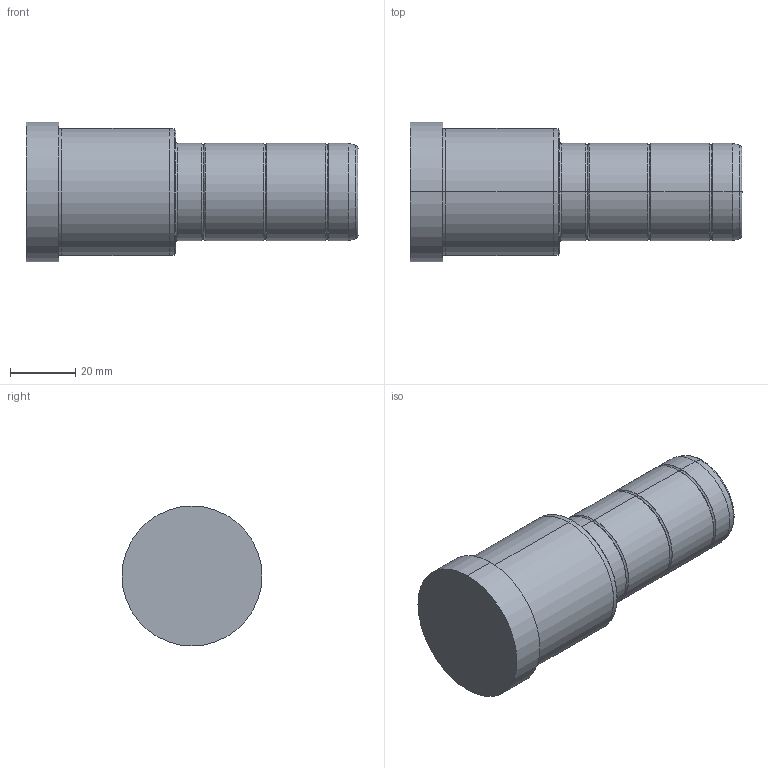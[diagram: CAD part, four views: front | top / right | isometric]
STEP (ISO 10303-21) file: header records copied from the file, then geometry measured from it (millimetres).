
FILE_DESCRIPTION( ( 'STEP AP203' ), '1' );
FILE_NAME( 'C:/Projects/D02 - 30x46x56.step', '2002-12-31T22:51:48', ( ' ' ), ( ' ' ), 'XStep 1.0', ' ', ' ' );
FILE_SCHEMA( ( 'CONFIG_CONTROL_DESIGN' ) );
Length unit declared in the file: metre
Products named in the file (1): 1
Bounding box: 102 x 43 x 43 mm (x, y, z)
Volume: 96910.6 mm3; surface area: 13952.1 mm2
Topology: 1 solids, 1 shells, 42 faces, 82 edges, 46 vertices
Faces by surface type: bspline 22, revolution 20
Entity records: 1325 total; most frequent: CARTESIAN_POINT 517, ORIENTED_EDGE 164, DIRECTION 134, EDGE_CURVE 82, AXIS2_PLACEMENT_3D 47, EDGE_LOOP 46, VERTEX_POINT 46, CIRCLE 46
